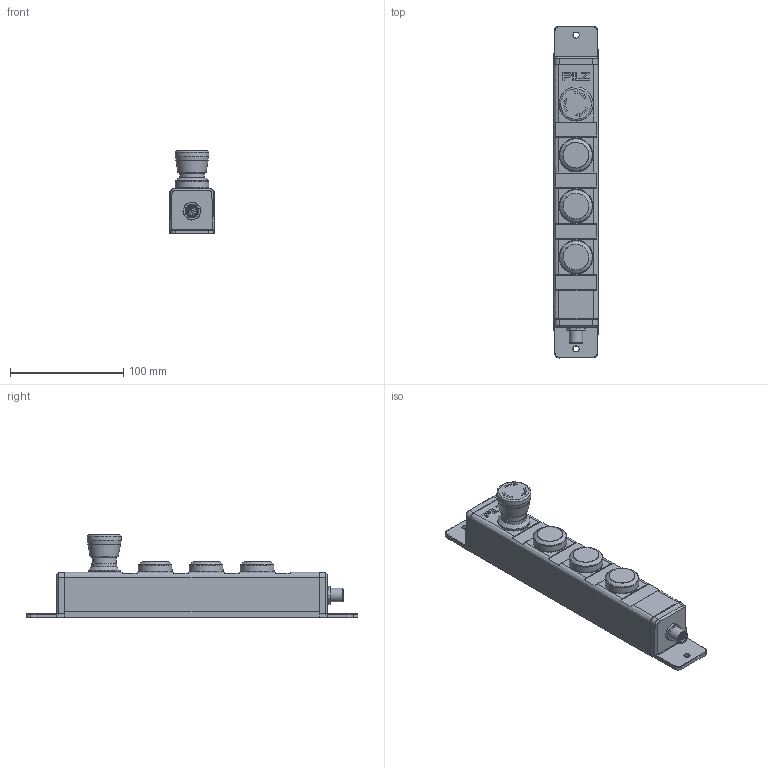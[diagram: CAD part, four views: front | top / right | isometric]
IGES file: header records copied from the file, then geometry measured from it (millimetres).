
Global section: file name: 2030193_B_PIT_gb_LLTE; native system: Autodesk Inventor 2020; preprocessor: unknown; author: ES-PE; date: 20210416.082236; units: millimetre
Bounding box: 40 x 293 x 73.68 mm (x, y, z)
Volume: 420366.3 mm3; surface area: 60837.4 mm2
Topology: 6 solids, 6 shells, 575 faces, 1439 edges, 930 vertices
Faces by surface type: bspline 575
